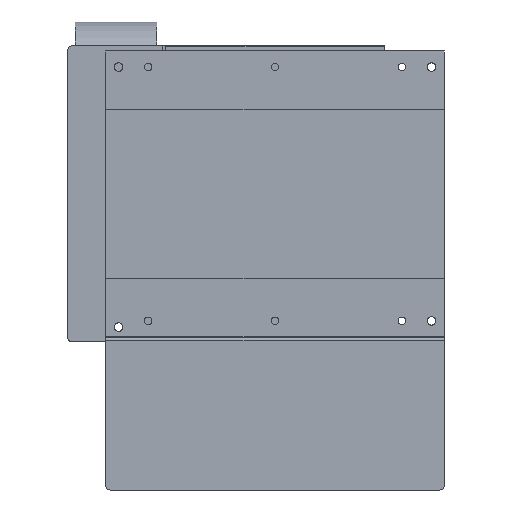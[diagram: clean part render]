
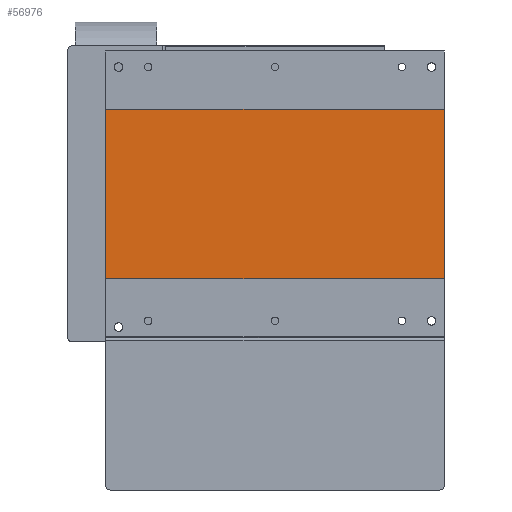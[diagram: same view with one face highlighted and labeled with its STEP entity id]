
A CAD part, front view. The second image highlights one B-rep face of the part: STEP entity #56976.
In plain terms, the highlighted planar face has unit normal (0, -1, 0).
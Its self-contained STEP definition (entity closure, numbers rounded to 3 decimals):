
#1928 = VECTOR ( 'NONE', #87260, 1000. ) ;
#2853 = VECTOR ( 'NONE', #63992, 1000. ) ;
#3938 = LINE ( 'NONE', #29389, #2853 ) ;
#4511 = AXIS2_PLACEMENT_3D ( 'NONE', #84352, #8912, #44083 ) ;
#4556 = CARTESIAN_POINT ( 'NONE',  ( -200., 0.5, -100. ) ) ;
#8912 = DIRECTION ( 'NONE',  ( 0., 1., 0. ) ) ;
#11297 = VERTEX_POINT ( 'NONE', #4556 ) ;
#14559 = LINE ( 'NONE', #19571, #67251 ) ;
#19571 = CARTESIAN_POINT ( 'NONE',  ( -200., 0.5, 100. ) ) ;
#25915 = CARTESIAN_POINT ( 'NONE',  ( -200., 0.5, 100. ) ) ;
#27754 = VECTOR ( 'NONE', #59873, 1000. ) ;
#29389 = CARTESIAN_POINT ( 'NONE',  ( 200., 0.5, 100. ) ) ;
#39000 = ORIENTED_EDGE ( 'NONE', *, *, #49514, .F. ) ;
#39368 = EDGE_LOOP ( 'NONE', ( #39000, #69323, #84132, #65358 ) ) ;
#39411 = CARTESIAN_POINT ( 'NONE',  ( 200., 0.5, -100. ) ) ;
#42883 = EDGE_CURVE ( 'NONE', #11297, #48774, #82614, .T. ) ;
#43508 = VERTEX_POINT ( 'NONE', #39411 ) ;
#44083 = DIRECTION ( 'NONE',  ( 0., 0., -1. ) ) ;
#45630 = CARTESIAN_POINT ( 'NONE',  ( 200., 0.5, 100. ) ) ;
#47211 = EDGE_CURVE ( 'NONE', #43508, #11297, #66459, .T. ) ;
#48774 = VERTEX_POINT ( 'NONE', #65391 ) ;
#49514 = EDGE_CURVE ( 'NONE', #48774, #85334, #14559, .T. ) ;
#53836 = DIRECTION ( 'NONE',  ( 1., 0., 0. ) ) ;
#56976 = ADVANCED_FACE ( 'NONE', ( #77388 ), #78900, .F. ) ;
#59873 = DIRECTION ( 'NONE',  ( 0., 0., 1. ) ) ;
#60509 = EDGE_CURVE ( 'NONE', #85334, #43508, #3938, .T. ) ;
#63992 = DIRECTION ( 'NONE',  ( 0., 0., -1. ) ) ;
#65358 = ORIENTED_EDGE ( 'NONE', *, *, #60509, .F. ) ;
#65391 = CARTESIAN_POINT ( 'NONE',  ( -200., 0.5, 100. ) ) ;
#66459 = LINE ( 'NONE', #80953, #1928 ) ;
#67251 = VECTOR ( 'NONE', #53836, 1000. ) ;
#69323 = ORIENTED_EDGE ( 'NONE', *, *, #42883, .F. ) ;
#77388 = FACE_OUTER_BOUND ( 'NONE', #39368, .T. ) ;
#78900 = PLANE ( 'NONE',  #4511 ) ;
#80953 = CARTESIAN_POINT ( 'NONE',  ( -200., 0.5, -100. ) ) ;
#82614 = LINE ( 'NONE', #25915, #27754 ) ;
#84132 = ORIENTED_EDGE ( 'NONE', *, *, #47211, .F. ) ;
#84352 = CARTESIAN_POINT ( 'NONE',  ( 200., 0.5, 100. ) ) ;
#85334 = VERTEX_POINT ( 'NONE', #45630 ) ;
#87260 = DIRECTION ( 'NONE',  ( -1., 0., 0. ) ) ;
